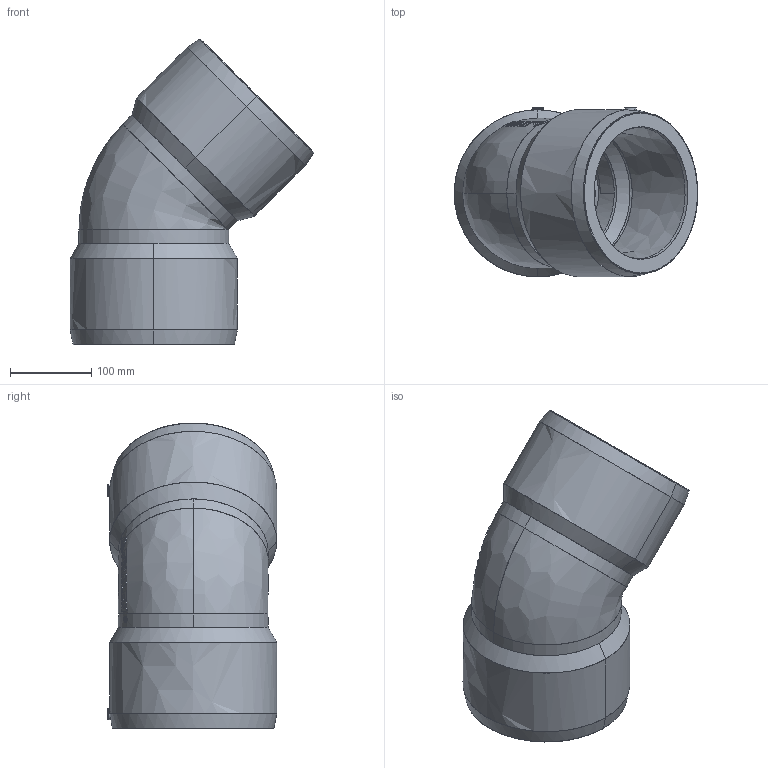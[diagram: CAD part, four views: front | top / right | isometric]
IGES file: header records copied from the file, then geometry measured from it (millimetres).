
Start section:  PTC IGES file: w45_d160_01.igs
Global section: file name: w45_d160_01.igs; native system: Pro/ENGINEER by Parametric Technology Corporation; preprocessor: 2011490; author: mtunjic; organization: Unknown; date: 20130812.112708; units: millimetre
Bounding box: 300.27 x 209 x 377.27 mm (x, y, z)
Surface area: 423755.3 mm2 (no closed solid volume)
Topology: 0 solids, 0 shells, 254 faces, 1290 edges, 1288 vertices
Faces by surface type: bspline 254
